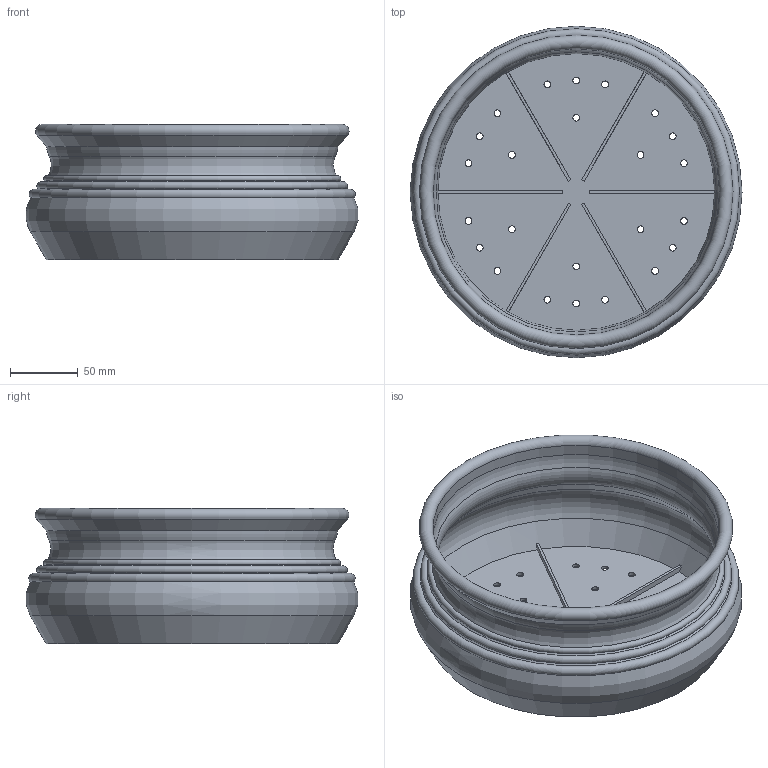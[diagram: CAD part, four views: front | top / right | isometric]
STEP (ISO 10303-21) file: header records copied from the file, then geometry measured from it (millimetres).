
FILE_DESCRIPTION(/* description */ (''),/* implementation_level */ '2;1');
FILE_NAME(/* name */ 'LR2406-S20-H100-D250_step.step',/* time_stamp */ '2024-02-01T11:01:00+01:00',/* author */ (''),/* organization */ (''),/* preprocessor_version */ 'ST-DEVELOPER v20',/* originating_system */ 'Autodesk Translation Framework v12.20.1.177',/* authorisation */ '');
FILE_SCHEMA (('AUTOMOTIVE_DESIGN { 1 0 10303 214 3 1 1 }'));
Length unit declared in the file: millimetre
Products named in the file (1): LR2406-S20-H100-D250
Bounding box: 245.65 x 245.3 x 100 mm (x, y, z)
Volume: 312670.7 mm3; surface area: 242506.8 mm2
Topology: 1 solids, 1 shells, 67 faces, 179 edges, 114 vertices
Faces by surface type: cylinder 31, plane 20, torus 10, cone 6
Full cylindrical faces by diameter (mm): 5 x24, 212 x1
Entity records: 2261 total; most frequent: DIRECTION 415, CARTESIAN_POINT 361, ORIENTED_EDGE 358, EDGE_CURVE 179, AXIS2_PLACEMENT_3D 168, EDGE_LOOP 115, VERTEX_POINT 114, CIRCLE 100
